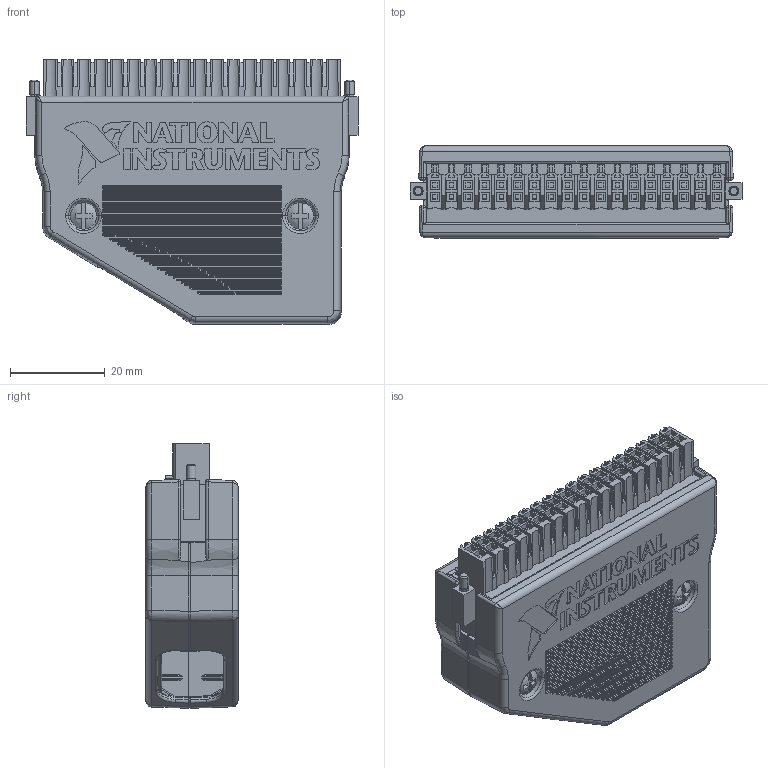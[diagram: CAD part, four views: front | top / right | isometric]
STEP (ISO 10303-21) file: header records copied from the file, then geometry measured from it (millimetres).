
FILE_DESCRIPTION((''),'2;1');
FILE_NAME('CU_NI-9940_WCONN','2016-03-11T',('dkendric'),(''),'PRO/ENGINEER BY PARAMETRIC TECHNOLOGY CORPORATION, 2015280','PRO/ENGINEER BY PARAMETRIC TECHNOLOGY CORPORATION, 2015280','');
FILE_SCHEMA(('CONFIG_CONTROL_DESIGN'));
Products named in the file (1): CU_NI-9940_WCONN
Bounding box: 70 x 19.41 x 55.79 mm (x, y, z)
Volume: 27582.4 mm3; surface area: 25009.2 mm2
Topology: 1 solids, 1 shells, 3733 faces, 8924 edges, 5412 vertices
Faces by surface type: plane 1587, cylinder 1320, torus 249, sphere 241, bspline 155, cone 110, extrusion 71
Entity records: 119156 total; most frequent: CARTESIAN_POINT 33075, DIRECTION 17934, ORIENTED_EDGE 17846, EDGE_CURVE 8923, AXIS2_PLACEMENT_3D 6264, VERTEX_POINT 5412, VECTOR 5406, LINE 5335
